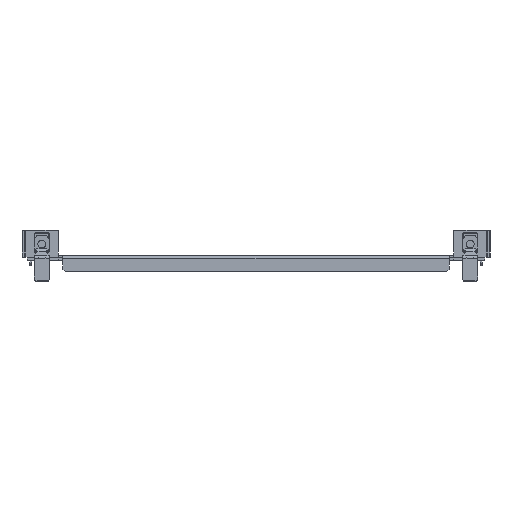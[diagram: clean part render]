
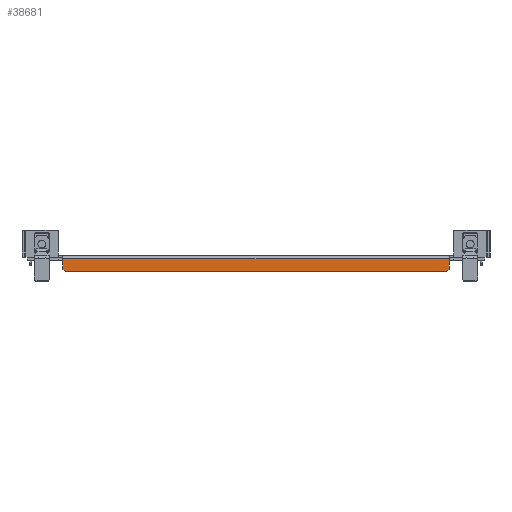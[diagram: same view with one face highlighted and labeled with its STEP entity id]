
A CAD part, front view. The second image highlights one B-rep face of the part: STEP entity #38681.
In plain terms, the highlighted planar face has unit normal (0, -1, 0).
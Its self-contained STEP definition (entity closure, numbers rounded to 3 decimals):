
#30296=CARTESIAN_POINT(' ',(-146.5,-111.5,-10.));
#30297=VERTEX_POINT(' ',#30296);
#30311=CARTESIAN_POINT(' ',(-146.5,-111.5,-2.1));
#30316=DIRECTION(' ',(0.,0.,-1.));
#30321=VECTOR(' ',#30316,1.);
#30326=LINE('',#30311,#30321);
#30331=CARTESIAN_POINT(' ',(-146.5,-111.5,-2.1));
#30332=VERTEX_POINT(' ',#30331);
#30336=EDGE_CURVE(' ',#30332,#30297,#30326,.T.);
#30441=CARTESIAN_POINT(' ',(-146.5,-111.5,-2.1));
#30446=DIRECTION(' ',(1.,0.,0.));
#30451=VECTOR(' ',#30446,1.);
#30456=LINE('',#30441,#30451);
#30461=CARTESIAN_POINT(' ',(146.5,-111.5,-2.1));
#30462=VERTEX_POINT(' ',#30461);
#30466=EDGE_CURVE(' ',#30332,#30462,#30456,.T.);
#38441=CARTESIAN_POINT(' ',(-146.5,-111.5,-10.));
#38446=DIRECTION(' ',(0.707,0.,-0.707));
#38451=VECTOR(' ',#38446,1.);
#38456=LINE('',#38441,#38451);
#38461=CARTESIAN_POINT(' ',(-144.5,-111.5,-12.));
#38462=VERTEX_POINT(' ',#38461);
#38466=EDGE_CURVE(' ',#30297,#38462,#38456,.T.);
#38531=DIRECTION(' ',(-0.,-1.,0.));
#38536=CARTESIAN_POINT(' ',(-146.5,-111.5,-12.));
#38541=DIRECTION(' ',(1.,-0.,0.));
#38546=AXIS2_PLACEMENT_3D(' ',#38536,#38531,#38541);
#38551=PLANE('NONE',#38546);
#38556=CARTESIAN_POINT(' ',(-144.5,-111.5,-12.));
#38561=DIRECTION(' ',(1.,0.,0.));
#38566=VECTOR(' ',#38561,1.);
#38571=LINE('',#38556,#38566);
#38576=CARTESIAN_POINT(' ',(144.5,-111.5,-12.));
#38577=VERTEX_POINT(' ',#38576);
#38581=EDGE_CURVE(' ',#38462,#38577,#38571,.T.);
#38586=ORIENTED_EDGE(' ',*,*,#38581,.T.);
#38591=CARTESIAN_POINT(' ',(144.5,-111.5,-12.));
#38596=DIRECTION(' ',(0.707,0.,0.707));
#38601=VECTOR(' ',#38596,1.);
#38606=LINE('',#38591,#38601);
#38611=CARTESIAN_POINT(' ',(146.5,-111.5,-10.));
#38612=VERTEX_POINT(' ',#38611);
#38616=EDGE_CURVE(' ',#38577,#38612,#38606,.T.);
#38621=ORIENTED_EDGE(' ',*,*,#38616,.T.);
#38626=CARTESIAN_POINT(' ',(146.5,-111.5,-10.));
#38631=DIRECTION(' ',(0.,0.,1.));
#38636=VECTOR(' ',#38631,1.);
#38641=LINE('',#38626,#38636);
#38646=EDGE_CURVE(' ',#38612,#30462,#38641,.T.);
#38651=ORIENTED_EDGE(' ',*,*,#38646,.T.);
#38656=ORIENTED_EDGE(' ',*,*,#30466,.F.);
#38661=ORIENTED_EDGE(' ',*,*,#30336,.T.);
#38666=ORIENTED_EDGE(' ',*,*,#38466,.T.);
#38671=EDGE_LOOP(' ',(#38586,#38621,#38651,#38656,#38661,#38666));
#38676=FACE_OUTER_BOUND(' ',#38671,.T.);
#38681=ADVANCED_FACE('NONE',(#38676),#38551,.T.);
